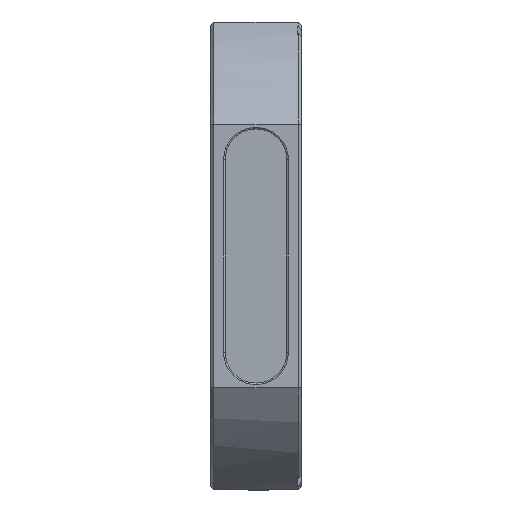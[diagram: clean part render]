
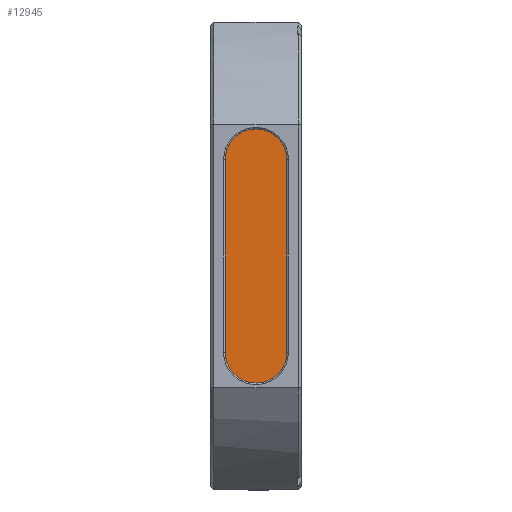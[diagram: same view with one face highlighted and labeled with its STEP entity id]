
A CAD part, left-side view. The second image highlights one B-rep face of the part: STEP entity #12945.
In plain terms, the highlighted planar face has unit normal (-1, 0, 0).
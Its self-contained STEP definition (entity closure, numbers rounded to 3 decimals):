
#1503=DIRECTION('',(0.,0.,-1.));
#1504=VECTOR('',#1503,63.754);
#1505=CARTESIAN_POINT('',(-77.1,25.257,31.877));
#1506=LINE('',#1505,#1504);
#1507=CARTESIAN_POINT('',(-77.1,15.,31.877));
#1508=DIRECTION('',(1.,0.,0.));
#1509=DIRECTION('',(0.,1.,0.));
#1510=AXIS2_PLACEMENT_3D('',#1507,#1508,#1509);
#1512=DIRECTION('',(0.,0.,1.));
#1513=VECTOR('',#1512,63.754);
#1514=CARTESIAN_POINT('',(-77.1,4.743,-31.877));
#1515=LINE('',#1514,#1513);
#1516=CARTESIAN_POINT('',(-77.1,15.,-31.877));
#1517=DIRECTION('',(1.,0.,0.));
#1518=DIRECTION('',(0.,-1.,0.));
#1519=AXIS2_PLACEMENT_3D('',#1516,#1517,#1518);
#10658=CARTESIAN_POINT('',(-77.1,4.743,-31.877));
#10659=CARTESIAN_POINT('',(-77.1,4.743,31.877));
#10660=VERTEX_POINT('',#10658);
#10661=VERTEX_POINT('',#10659);
#10662=CARTESIAN_POINT('',(-77.1,25.257,31.877));
#10663=CARTESIAN_POINT('',(-77.1,25.257,-31.877));
#10664=VERTEX_POINT('',#10662);
#10665=VERTEX_POINT('',#10663);
#12931=CARTESIAN_POINT('',(-77.1,0.,0.));
#12932=DIRECTION('',(1.,0.,0.));
#12933=DIRECTION('',(0.,1.,0.));
#12934=AXIS2_PLACEMENT_3D('',#12931,#12932,#12933);
#12935=PLANE('',#12934);
#12937=ORIENTED_EDGE('',*,*,#12936,.F.);
#12938=ORIENTED_EDGE('',*,*,#12920,.T.);
#12940=ORIENTED_EDGE('',*,*,#12939,.F.);
#12942=ORIENTED_EDGE('',*,*,#12941,.T.);
#12943=EDGE_LOOP('',(#12937,#12938,#12940,#12942));
#12944=FACE_OUTER_BOUND('',#12943,.F.);
#12945=ADVANCED_FACE('',(#12944),#12935,.F.);
#1511=CIRCLE('',#1510,10.259);
#1520=CIRCLE('',#1519,10.259);
#12920=EDGE_CURVE('',#10664,#10661,#1511,.T.);
#12936=EDGE_CURVE('',#10664,#10665,#1506,.T.);
#12939=EDGE_CURVE('',#10660,#10661,#1515,.T.);
#12941=EDGE_CURVE('',#10660,#10665,#1520,.T.);
